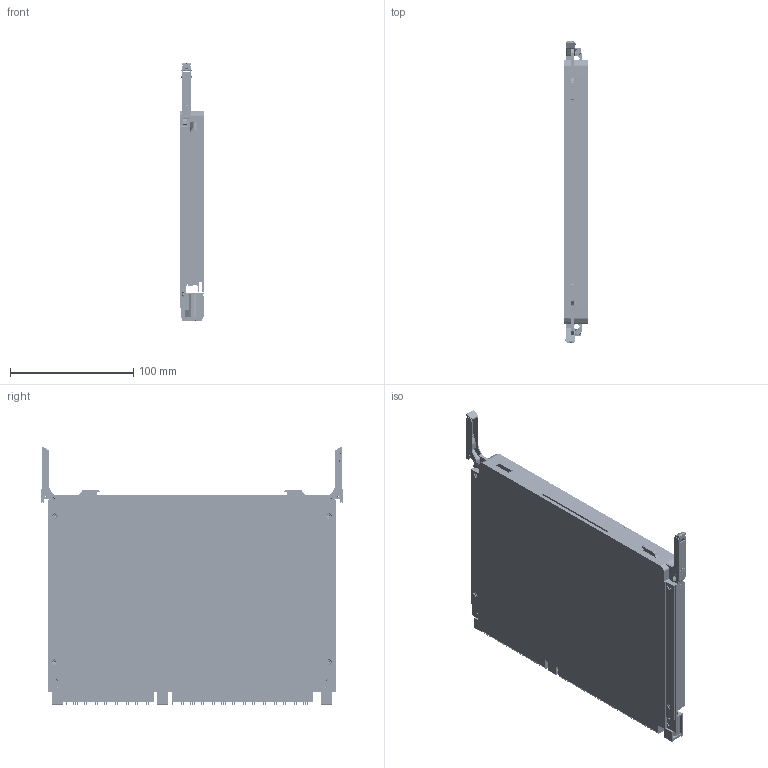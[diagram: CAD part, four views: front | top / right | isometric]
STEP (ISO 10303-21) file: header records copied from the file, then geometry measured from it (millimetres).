
FILE_DESCRIPTION (( 'STEP AP214' ), '1' );
FILE_NAME ('6U-VPX48.2-PS-265-311-TC OPEN.STEP', '2018-06-19T14:12:44', ( '' ), ( '' ), 'SwSTEP 2.0', 'SolidWorks 2014', '' );
FILE_SCHEMA (( 'AUTOMOTIVE_DESIGN' ));
Length unit declared in the file: inch
Products named in the file (20): PMC-XMC COVER; 6U-VPX48.2-PS-265-311-TC OPEN; SECONDARY SIDE COVER_311-TC_265; Single Mezzanine board assembly; c-2102060-1-e-3d; 714362164; PMC-XMC BOARD_PMC XMC VITA 20 VITA 42; VPX BOARD ASSEMBLY_6UXMC VITA 42 board only_311-TC; 714390164; c-2102061-1-g-3d; 1410189-3; 1774226_1-1469492-9; 1410187-3; VPX BOARD_6UVPX48.2_311-TC; CCA FRAME ASSEMBLY_311-TC_6UVPX48.2-800-265 FRAME ASSY FULLY EXTRACTED - ALTERNATE LEVER; 265-4.80; RH 311-TC_SDG; LH 311-TC_SDG; 322307-18_92010A016; FRAME_311-TC_6UVPX48.2-800-265 PSR - ALTERNATE LEVER
Assembly tree (53 placements, depth 3):
  6U-VPX48.2-PS-265-311-TC OPEN
    CCA FRAME ASSEMBLY_311-TC_6UVPX48.2-800-265 FRAME ASSY FULLY EXTRACTED - ALTERNATE LEVER
      FRAME_311-TC_6UVPX48.2-800-265 PSR - ALTERNATE LEVER
      322307-18_92010A016  x6
      LH 311-TC_SDG
      RH 311-TC_SDG
      265-4.80  x2
    322307-18_92010A016  x13
    VPX BOARD ASSEMBLY_6UXMC VITA 42 board only_311-TC
      VPX BOARD_6UVPX48.2_311-TC
      1410187-3  x6
      1774226_1-1469492-9  x3
      1410189-3
      c-2102061-1-g-3d  x2
      714390164  x4
    Single Mezzanine board assembly
      PMC-XMC BOARD_PMC XMC VITA 20 VITA 42
      714362164  x4
      c-2102060-1-e-3d  x2
    SECONDARY SIDE COVER_311-TC_265
    PMC-XMC COVER
Bounding box: 19.09 x 245.03 x 209.5 mm (x, y, z)
Topology: 316 solids, 328 shells, 25250 faces, 67815 edges, 44732 vertices
Faces by surface type: plane 21655, cylinder 2647, bspline 587, cone 355, torus 6
Full cylindrical faces by diameter (mm): 0.356 x6, 0.43 x26, 0.5 x228, 0.559 x2, 0.635 x2, 0.813 x2, 0.864 x2, 0.965 x2, 1.05 x33, 1.067 x4, 1.092 x4, 1.2 x16, 1.213 x4, 1.219 x2, 1.321 x2, 1.524 x2, 1.6 x12, 1.651 x2, 1.702 x4, 2.032 x2, 2.05 x8, 2.2 x15, 2.5 x190, 2.55 x20, 2.7 x18, 2.794 x2, 2.9 x10, 3 x3, 3.1 x8, 4.65 x3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
Entity records: 273948 total; most frequent: CARTESIAN_POINT 70536, ORIENTED_EDGE 40810, DIRECTION 37697, EDGE_CURVE 20403, LINE 17693, VECTOR 17693, VERTEX_POINT 13707, AXIS2_PLACEMENT_3D 10002
